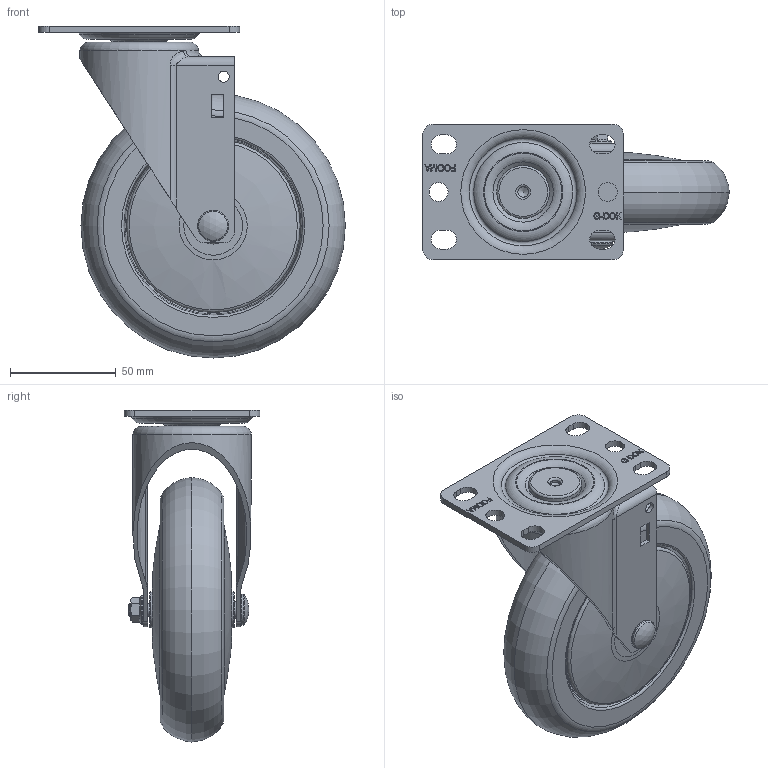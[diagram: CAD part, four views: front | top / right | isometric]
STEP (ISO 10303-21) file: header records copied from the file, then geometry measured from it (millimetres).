
FILE_DESCRIPTION(/* description */ (''),/* implementation_level */ '2;1');
FILE_NAME(/* name */ 'E:\홈피용도면\\X2\C2E0ADDCD648D398C774C9C0C6A9B3C4BA74\X0\\무소음캐스터\20160225-\X2\BB34C18CC74CCE90C2A4D130\X0\\GL-125-ASF.stp',/* time_stamp */ '2016-02-25T21:43:28+09:00',/* author */ ('장용하'),/* organization */ (''),/* preprocessor_version */ 'ST-DEVELOPER v15.6',/* originating_system */ 'Autodesk Inventor 2015',/* authorisation */ '');
FILE_SCHEMA (('AUTOMOTIVE_DESIGN { 1 0 10303 214 3 1 1 }'));
Length unit declared in the file: millimetre
Products named in the file (1): GL-125-ASF
Bounding box: 145 x 64 x 157 mm (x, y, z)
Volume: 303089.6 mm3; surface area: 105037.9 mm2
Topology: 2 solids, 3 shells, 893 faces, 2407 edges, 1576 vertices
Faces by surface type: plane 706, torus 72, cylinder 48, cone 41, bspline 25, sphere 1
Full cylindrical faces by diameter (mm): 5 x1, 5.2 x2, 6 x2, 6.2 x1, 7 x1, 8 x1, 9 x2, 11 x1, 11.1 x1, 11.2 x1, 14 x1, 14.6 x1, 16 x1, 22 x2, 24.645 x1, 25 x1, 41 x1
Entity records: 28428 total; most frequent: CARTESIAN_POINT 6482, ORIENTED_EDGE 4542, DIRECTION 4228, EDGE_CURVE 2271, LINE 1940, VECTOR 1940, VERTEX_POINT 1568, AXIS2_PLACEMENT_3D 1144
